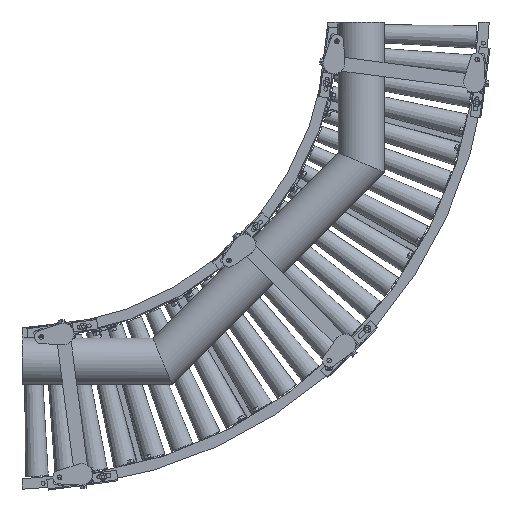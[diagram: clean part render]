
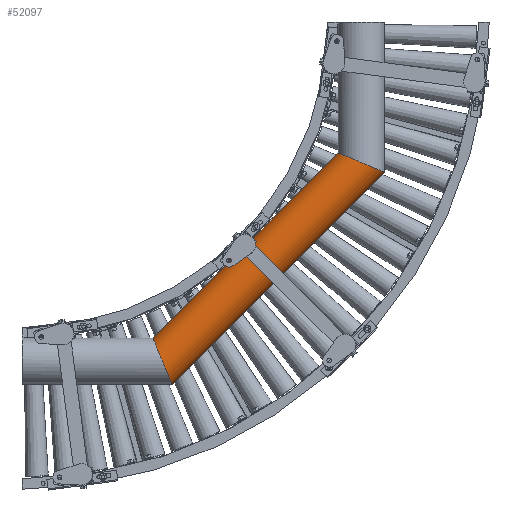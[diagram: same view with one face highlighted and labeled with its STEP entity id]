
A CAD part, front view. The second image highlights one B-rep face of the part: STEP entity #52097.
In plain terms, the highlighted cylindrical face has radius 67.024 mm (diameter 134.048 mm), a partial arc.
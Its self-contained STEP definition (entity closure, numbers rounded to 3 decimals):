
#6406 = EDGE_CURVE ( 'NONE', #70572, #168562, #76764, .T. ) ;
#7967 = EDGE_CURVE ( 'NONE', #161499, #70572, #25975, .T. ) ;
#10573 = CARTESIAN_POINT ( 'NONE',  ( 427.727, -166.5, -1032.6 ) ) ;
#25806 = VECTOR ( 'NONE', #85572, 1000. ) ;
#25975 = LINE ( 'NONE', #104965, #59265 ) ;
#26934 = CARTESIAN_POINT ( 'NONE',  ( 900., -166.5, -372.802 ) ) ;
#35881 = AXIS2_PLACEMENT_3D ( 'NONE', #137980, #43707, #57923 ) ;
#43707 = DIRECTION ( 'NONE',  ( -0.707, 0., -0.707 ) ) ;
#50935 = CARTESIAN_POINT ( 'NONE',  ( 372.802, -166.5, -900. ) ) ;
#52097 = ADVANCED_FACE ( 'NONE', ( #176486 ), #114379, .T. ) ;
#57923 = DIRECTION ( 'NONE',  ( -0.707, 0., 0.707 ) ) ;
#59265 = VECTOR ( 'NONE', #159594, 1000. ) ;
#64058 = ORIENTED_EDGE ( 'NONE', *, *, #157233, .T. ) ;
#70572 = VERTEX_POINT ( 'NONE', #142270 ) ;
#72565 = CARTESIAN_POINT ( 'NONE',  ( 900., -166.5, -372.802 ) ) ;
#76764 =( BOUNDED_CURVE ( )  B_SPLINE_CURVE ( 3, ( #10573, #80694, #180563, #50935 ),
 .UNSPECIFIED., .F., .T. ) 
 B_SPLINE_CURVE_WITH_KNOTS ( ( 4, 4 ),
 ( 0.147, 2.994 ),
 .UNSPECIFIED. ) 
 CURVE ( )  GEOMETRIC_REPRESENTATION_ITEM ( )  RATIONAL_B_SPLINE_CURVE ( ( 1., 0.431, 0.431, 1. ) ) 
 REPRESENTATION_ITEM ( '' )  );
#80694 = CARTESIAN_POINT ( 'NONE',  ( 421.501, -267.933, -1017.57 ) ) ;
#82809 = CARTESIAN_POINT ( 'NONE',  ( 1017.57, -267.933, -421.501 ) ) ;
#83429 = CARTESIAN_POINT ( 'NONE',  ( 1032.6, -166.5, -427.727 ) ) ;
#85572 = DIRECTION ( 'NONE',  ( -0.707, 0., -0.707 ) ) ;
#88608 = EDGE_CURVE ( 'NONE', #161499, #119454, #91853, .T. ) ;
#91853 =( BOUNDED_CURVE ( )  B_SPLINE_CURVE ( 3, ( #83429, #82809, #182675, #26934 ),
 .UNSPECIFIED., .F., .F. ) 
 B_SPLINE_CURVE_WITH_KNOTS ( ( 4, 4 ),
 ( 0.147, 2.994 ),
 .UNSPECIFIED. ) 
 CURVE ( )  GEOMETRIC_REPRESENTATION_ITEM ( )  RATIONAL_B_SPLINE_CURVE ( ( 1., 0.431, 0.431, 1. ) ) 
 REPRESENTATION_ITEM ( '' )  );
#101368 = LINE ( 'NONE', #102308, #25806 ) ;
#102308 = CARTESIAN_POINT ( 'NONE',  ( 939.043, -166.5, -333.759 ) ) ;
#104965 = CARTESIAN_POINT ( 'NONE',  ( 1032.805, -166.5, -427.522 ) ) ;
#106137 = ORIENTED_EDGE ( 'NONE', *, *, #6406, .F. ) ;
#114379 = CYLINDRICAL_SURFACE ( 'NONE', #35881, 67.024 ) ;
#119454 = VERTEX_POINT ( 'NONE', #72565 ) ;
#131729 = ORIENTED_EDGE ( 'NONE', *, *, #88608, .T. ) ;
#137894 = CARTESIAN_POINT ( 'NONE',  ( 1032.6, -166.5, -427.727 ) ) ;
#137980 = CARTESIAN_POINT ( 'NONE',  ( 985.924, -156.676, -380.64 ) ) ;
#139756 = ORIENTED_EDGE ( 'NONE', *, *, #7967, .F. ) ;
#142270 = CARTESIAN_POINT ( 'NONE',  ( 427.727, -166.5, -1032.6 ) ) ;
#152759 = EDGE_LOOP ( 'NONE', ( #139756, #131729, #64058, #106137 ) ) ;
#157233 = EDGE_CURVE ( 'NONE', #119454, #168562, #101368, .T. ) ;
#159594 = DIRECTION ( 'NONE',  ( -0.707, 0., -0.707 ) ) ;
#161499 = VERTEX_POINT ( 'NONE', #137894 ) ;
#168562 = VERTEX_POINT ( 'NONE', #176330 ) ;
#176330 = CARTESIAN_POINT ( 'NONE',  ( 372.802, -166.5, -900. ) ) ;
#176486 = FACE_OUTER_BOUND ( 'NONE', #152759, .T. ) ;
#180563 = CARTESIAN_POINT ( 'NONE',  ( 379.027, -267.933, -915.03 ) ) ;
#182675 = CARTESIAN_POINT ( 'NONE',  ( 915.03, -267.933, -379.027 ) ) ;
